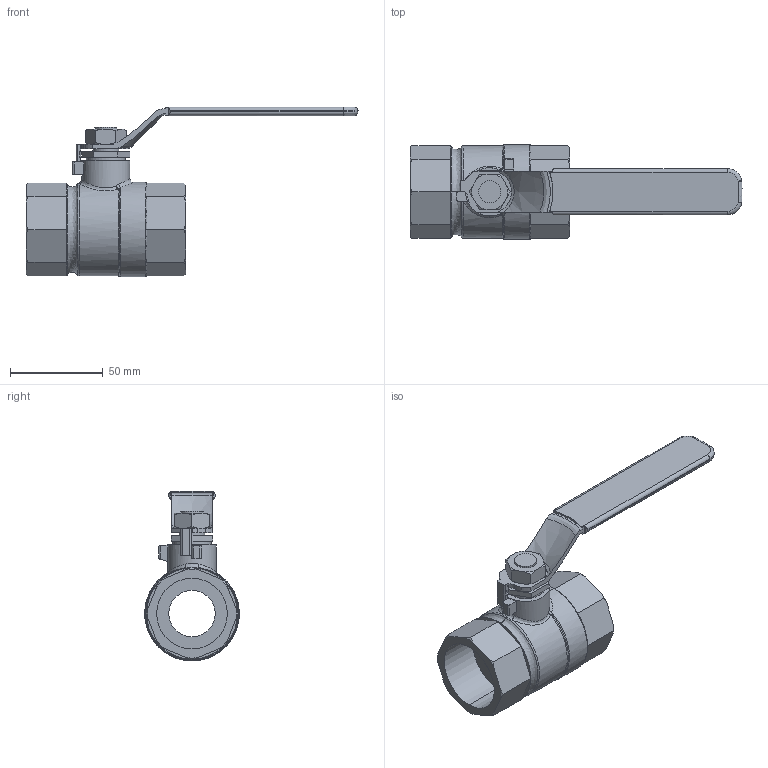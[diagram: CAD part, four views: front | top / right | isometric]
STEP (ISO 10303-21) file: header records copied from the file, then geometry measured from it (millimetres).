
FILE_DESCRIPTION( (''), '2;1');
FILE_NAME ('PC2091.14996.32A_1349.stp','2026-05-28T08:43:39',(''),(''),'spGate 21.9.4 (****-****-****-****)','','');
FILE_SCHEMA (('AUTOMOTIVE_DESIGN'));
Length unit declared in the file: millimetre
Bounding box: 178.99 x 51 x 91.5 mm (x, y, z)
Volume: 116916 mm3; surface area: 36042.7 mm2
Topology: 1 solids, 1 shells, 196 faces, 515 edges, 324 vertices
Faces by surface type: plane 85, bspline 63, cylinder 44, sphere 4
Entity records: 11145 total; most frequent: CARTESIAN_POINT 2819, ORIENTED_EDGE 1018, DIRECTION 773, COLOUR_RGB 706, PRESENTATION_STYLE_ASSIGNMENT 706, STYLED_ITEM 706, EDGE_CURVE 509, DRAUGHTING_PRE_DEFINED_CURVE_FONT 509
